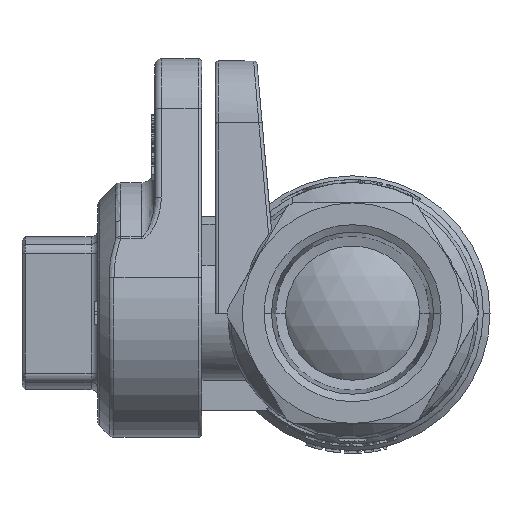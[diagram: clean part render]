
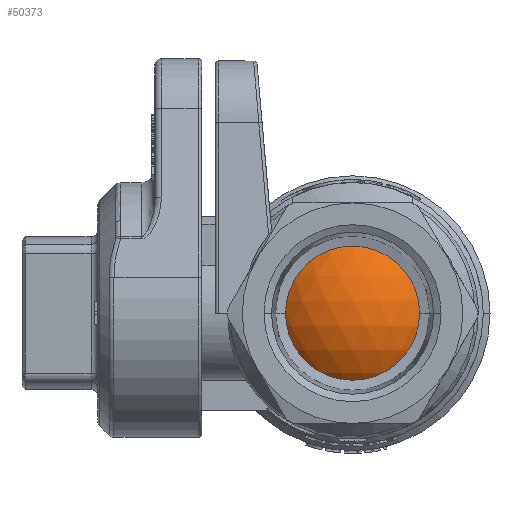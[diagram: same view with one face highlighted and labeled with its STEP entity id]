
A CAD part, left-side view. The second image highlights one B-rep face of the part: STEP entity #50373.
In plain terms, the highlighted spherical face has radius 16.25 mm.
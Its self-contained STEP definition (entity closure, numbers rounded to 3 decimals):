
#50130=CARTESIAN_POINT('',(-11.752,0.,0.));
#50131=DIRECTION('',(-1.,0.,0.));
#50132=DIRECTION('',(0.,-1.,0.));
#50133=AXIS2_PLACEMENT_3D('',#50130,#50131,#50132);
#50135=CARTESIAN_POINT('',(-3.,13.285,8.864));
#50136=CARTESIAN_POINT('',(-2.342,13.361,
8.973));
#50137=CARTESIAN_POINT('',(-1.021,13.464,
9.116));
#50138=CARTESIAN_POINT('',(1.021,13.464,9.116));
#50139=CARTESIAN_POINT('',(2.342,13.361,8.973));
#50140=CARTESIAN_POINT('',(3.,13.285,8.864));
#50142=CARTESIAN_POINT('',(3.,0.,0.));
#50143=DIRECTION('',(-1.,0.,0.));
#50144=DIRECTION('',(0.,0.832,0.555));
#50145=AXIS2_PLACEMENT_3D('',#50142,#50143,#50144);
#50157=CARTESIAN_POINT('',(-3.,0.,0.));
#50158=DIRECTION('',(-1.,0.,0.));
#50159=DIRECTION('',(0.,0.832,0.555));
#50160=AXIS2_PLACEMENT_3D('',#50157,#50158,#50159);
#50179=CARTESIAN_POINT('',(0.,0.,0.));
#50180=DIRECTION('',(0.,0.,-1.));
#50181=DIRECTION('',(-0.723,0.691,0.));
#50182=AXIS2_PLACEMENT_3D('',#50179,#50180,#50181);
#50189=CARTESIAN_POINT('',(0.,0.,0.));
#50190=DIRECTION('',(0.,0.,1.));
#50191=DIRECTION('',(-0.723,-0.691,0.));
#50192=AXIS2_PLACEMENT_3D('',#50189,#50190,#50191);
#50194=CARTESIAN_POINT('',(0.,0.,0.));
#50195=DIRECTION('',(0.,0.,-1.));
#50196=DIRECTION('',(0.185,0.983,0.));
#50197=AXIS2_PLACEMENT_3D('',#50194,#50195,#50196);
#50214=CARTESIAN_POINT('',(11.752,0.,0.));
#50215=DIRECTION('',(-1.,0.,0.));
#50216=DIRECTION('',(0.,-1.,0.));
#50217=AXIS2_PLACEMENT_3D('',#50214,#50215,#50216);
#50257=CARTESIAN_POINT('',(-11.752,-11.223,0.));
#50258=CARTESIAN_POINT('',(11.752,-11.223,0.));
#50259=VERTEX_POINT('',#50257);
#50260=VERTEX_POINT('',#50258);
#50269=CARTESIAN_POINT('',(3.,13.285,8.864));
#50270=CARTESIAN_POINT('',(3.,15.971,0.));
#50271=VERTEX_POINT('',#50269);
#50272=VERTEX_POINT('',#50270);
#50273=CARTESIAN_POINT('',(-3.,13.285,8.864));
#50274=CARTESIAN_POINT('',(-3.,15.971,0.));
#50275=VERTEX_POINT('',#50273);
#50276=VERTEX_POINT('',#50274);
#50281=CARTESIAN_POINT('',(-11.752,11.223,0.));
#50282=VERTEX_POINT('',#50281);
#50283=CARTESIAN_POINT('',(11.752,11.223,0.));
#50284=VERTEX_POINT('',#50283);
#50351=CARTESIAN_POINT('',(0.,0.,0.));
#50352=DIRECTION('',(-1.,0.,0.));
#50353=DIRECTION('',(0.,1.,0.));
#50354=AXIS2_PLACEMENT_3D('',#50351,#50352,#50353);
#50355=SPHERICAL_SURFACE('',#50354,16.25);
#50357=ORIENTED_EDGE('',*,*,#50356,.T.);
#50359=ORIENTED_EDGE('',*,*,#50358,.T.);
#50361=ORIENTED_EDGE('',*,*,#50360,.F.);
#50363=ORIENTED_EDGE('',*,*,#50362,.F.);
#50364=ORIENTED_EDGE('',*,*,#50346,.T.);
#50366=ORIENTED_EDGE('',*,*,#50365,.T.);
#50368=ORIENTED_EDGE('',*,*,#50367,.F.);
#50370=ORIENTED_EDGE('',*,*,#50369,.T.);
#50371=EDGE_LOOP('',(#50357,#50359,#50361,#50363,#50364,#50366,#50368,#50370));
#50372=FACE_OUTER_BOUND('',#50371,.F.);
#50373=ADVANCED_FACE('',(#50372),#50355,.T.);
#50134=CIRCLE('',#50133,11.223);
#50141=B_SPLINE_CURVE_WITH_KNOTS('',3,(#50135,#50136,#50137,#50138,#50139,
#50140),.UNSPECIFIED.,.F.,.F.,(4,1,1,4),(0.,0.333,
0.667,1.),.UNSPECIFIED.);
#50146=CIRCLE('',#50145,15.971);
#50161=CIRCLE('',#50160,15.971);
#50183=CIRCLE('',#50182,16.25);
#50193=CIRCLE('',#50192,16.25);
#50198=CIRCLE('',#50197,16.25);
#50218=CIRCLE('',#50217,11.223);
#50346=EDGE_CURVE('',#50259,#50282,#50134,.T.);
#50356=EDGE_CURVE('',#50271,#50272,#50146,.T.);
#50358=EDGE_CURVE('',#50272,#50284,#50198,.T.);
#50360=EDGE_CURVE('',#50260,#50284,#50218,.T.);
#50362=EDGE_CURVE('',#50259,#50260,#50193,.T.);
#50365=EDGE_CURVE('',#50282,#50276,#50183,.T.);
#50367=EDGE_CURVE('',#50275,#50276,#50161,.T.);
#50369=EDGE_CURVE('',#50275,#50271,#50141,.T.);
